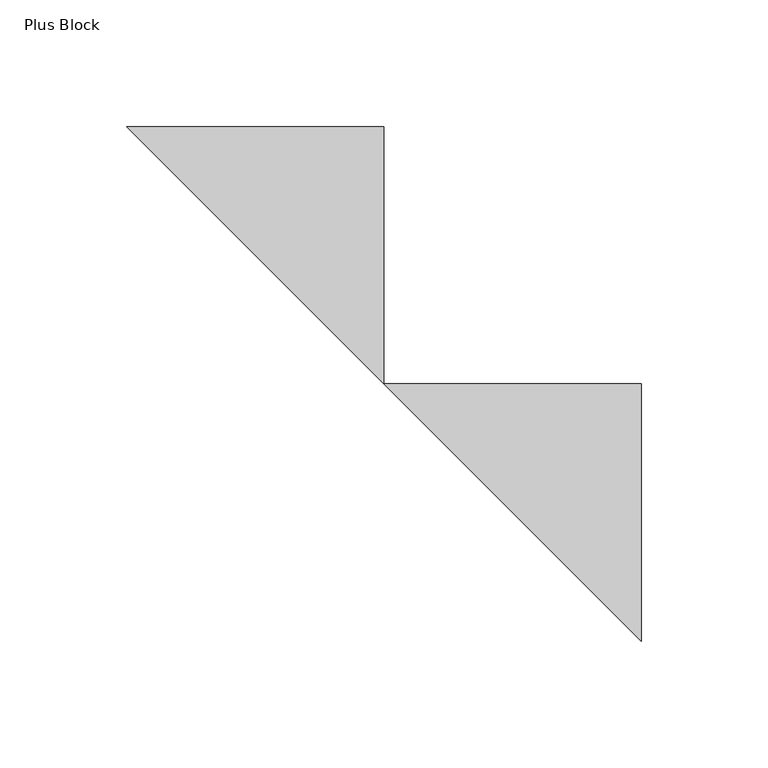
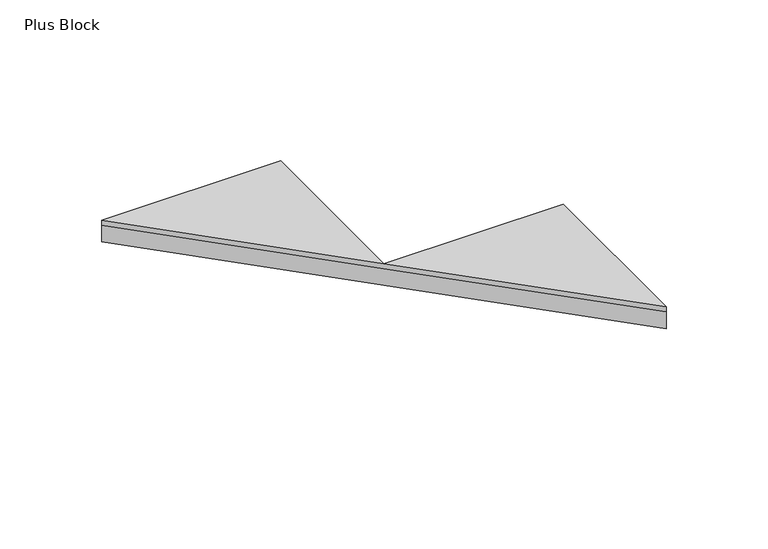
"""IFC4 building model written with IfcOpenShell, lengths in millimetres: proxy geometry, FilzFelt_Plus_Block : Plus Block."""

from ifc_helpers import new_model, si_unit, origin, place, context, project, spatial, faceted_brep, source, transform, mapped, element, save


def plus_block_1609f09f(model_context):
    return source(origin(), model_context, "Body", "Brep", [
        faceted_brep([(50.8333333, 50.8333333, 10.0210937), (152.5, 50.8333333, 10.0210937), (152.5, -50.8333333, 10.0210937), (-50.8333333, 152.5, 10.0210937), (50.8333333, 152.5, 10.0210937), (50.8333333, 50.8333333, 12.9976563), (50.8333333, 152.5, 12.9976563), (-50.8333333, 152.5, 12.9976563), (152.5, -50.8333333, 12.9976563), (152.5, 50.8333333, 12.9976563)], [[[0, 1, 2]], [[3, 4, 0]], [[5, 6, 7]], [[8, 9, 5]], [[1, 0, 5, 9]], [[2, 1, 9, 8]], [[4, 3, 7, 6]], [[0, 4, 6, 5]], [[3, 0, 2, 8, 5, 7]]]),
        faceted_brep([(-50.8333333, 152.5, 0.0), (50.8333333, 152.5, 0.0), (50.8333333, 50.8333333, 0.0), (152.5, 50.8333333, 0.0), (152.5, -50.8333333, 0.0), (152.5, -50.8333333, 10.0210937), (152.5, 50.8333333, 10.0210937), (50.8333333, 50.8333333, 10.0210937), (50.8333333, 152.5, 10.0210937), (-50.8333333, 152.5, 10.0210937)], [[[0, 1, 2]], [[2, 3, 4]], [[5, 6, 7]], [[7, 8, 9]], [[1, 0, 9, 8]], [[4, 3, 6, 5]], [[2, 1, 8, 7]], [[3, 2, 7, 6]], [[0, 2, 4, 5, 7, 9]]]),
    ])


if __name__ == "__main__":
    model = new_model("IFC4")
    model_context = context("Model", 3, world=origin())
    ifc_project = project(units=[si_unit("LENGTHUNIT", "METRE", prefix="MILLI")], contexts=[model_context])
    site = spatial("IfcSite", under=ifc_project)
    building = spatial("IfcBuilding", under=site)
    placement = place(None, origin())
    plus_block_shape = plus_block_1609f09f(model_context)
    element("IfcBuildingElementProxy", 1, Name="FilzFelt_Plus_Block : Plus Block", ObjectType="FilzFelt_Plus_Block : Plus Block", at=placement, inside=building, context=model_context, shape_type="MappedRepresentation", body=[
        mapped(plus_block_shape, transform((0.0, 0.0, 0.0), x_axis=(1.0, 0.0, 0.0), y_axis=(0.0, 1.0, 0.0), z_axis=(0.0, 0.0, 1.0))),
    ])
    save(model, "model.ifc")
